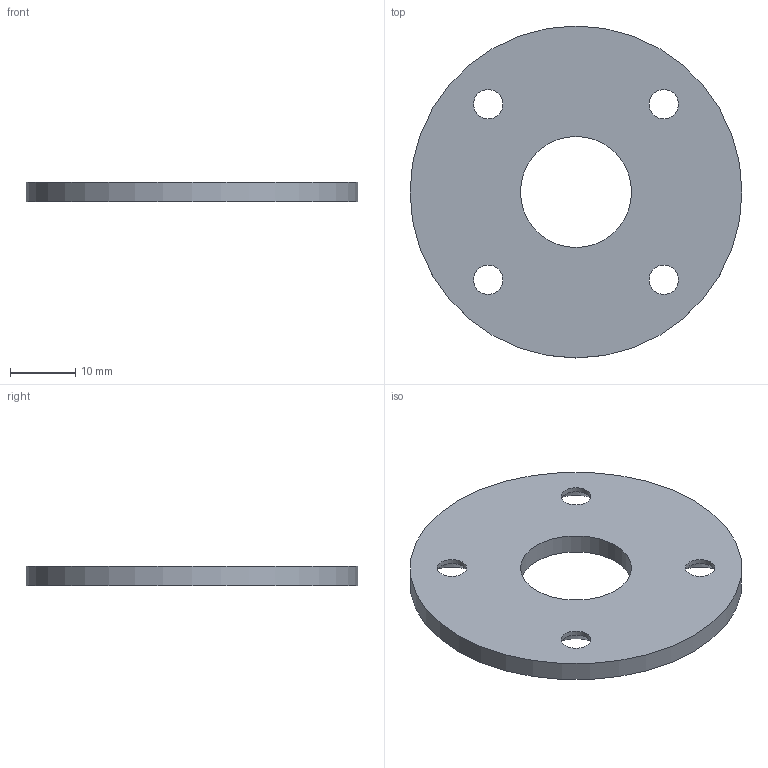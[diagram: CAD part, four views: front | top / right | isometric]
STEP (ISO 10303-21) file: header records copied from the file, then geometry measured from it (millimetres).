
FILE_DESCRIPTION(('FreeCAD Model'),'2;1');
FILE_NAME('Open CASCADE Shape Model','2026-09-19T17:54:12',('FreeCAD'),( 'FreeCAD'),'Open CASCADE STEP processor 7.8','FreeCAD','Unknown');
FILE_SCHEMA(('AUTOMOTIVE_DESIGN { 1 0 10303 214 1 1 1 1 }'));
Length unit declared in the file: millimetre
Products named in the file (1): Open CASCADE STEP translator 7.8 12
Bounding box: 50.8 x 50.8 x 3 mm (x, y, z)
Volume: 5017.8 mm3; surface area: 4232.9 mm2
Topology: 1 solids, 1 shells, 12 faces, 26 edges, 16 vertices
Faces by surface type: cylinder 6, cone 4, plane 2
Full cylindrical faces by diameter (mm): 4.5 x4, 17 x1, 50.8 x1
Entity records: 364 total; most frequent: DIRECTION 68, CARTESIAN_POINT 55, ORIENTED_EDGE 52, AXIS2_PLACEMENT_3D 29, EDGE_CURVE 26, FACE_BOUND 22, EDGE_LOOP 22, VERTEX_POINT 16
